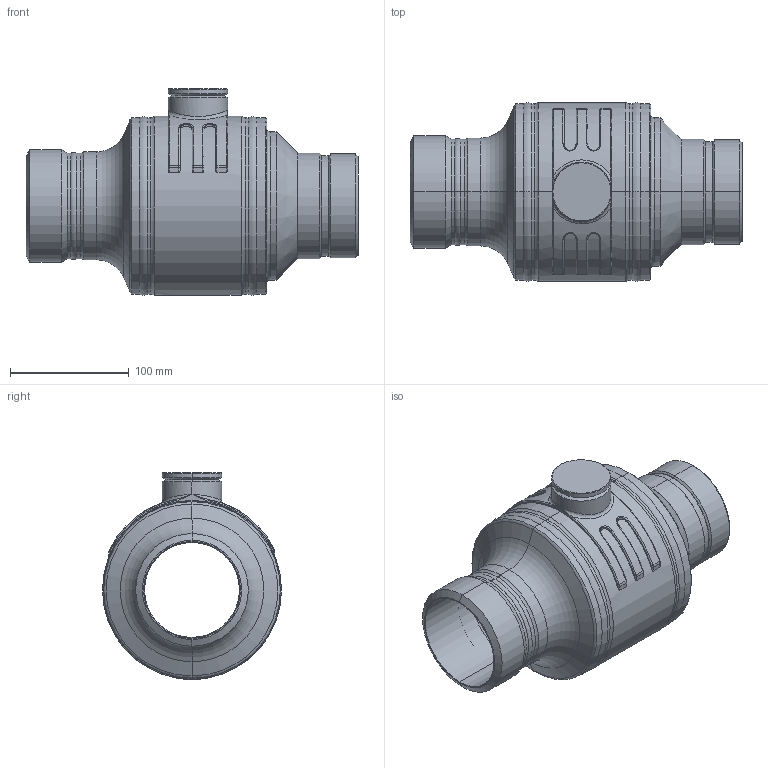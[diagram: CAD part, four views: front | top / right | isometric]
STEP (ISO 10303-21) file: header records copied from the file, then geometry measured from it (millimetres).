
FILE_DESCRIPTION((''),'2;1');
FILE_NAME('KHMO-AB-V-ISKT-080P040','2025-02-11T14:30:39',('jeitlers'),('KLINGER'),'CREO PARAMETRIC BY PTC INC, 2023014','CREO PARAMETRIC BY PTC INC, 2023014','');
FILE_SCHEMA(('CONFIG_CONTROL_DESIGN'));
Length unit declared in the file: millimetre
Products named in the file (1): KHMO-AB-V-ISKT-080P040
Bounding box: 280 x 151 x 174.5 mm (x, y, z)
Volume: 1234033.4 mm3; surface area: 373412.4 mm2
Topology: 1 solids, 1 shells, 355 faces, 827 edges, 480 vertices
Faces by surface type: cylinder 116, torus 88, cone 66, plane 57, bspline 24, sphere 4
Entity records: 17218 total; most frequent: CARTESIAN_POINT 9023, DIRECTION 1883, ORIENTED_EDGE 1638, EDGE_CURVE 819, AXIS2_PLACEMENT_3D 815, CIRCLE 484, VERTEX_POINT 480, EDGE_LOOP 377
